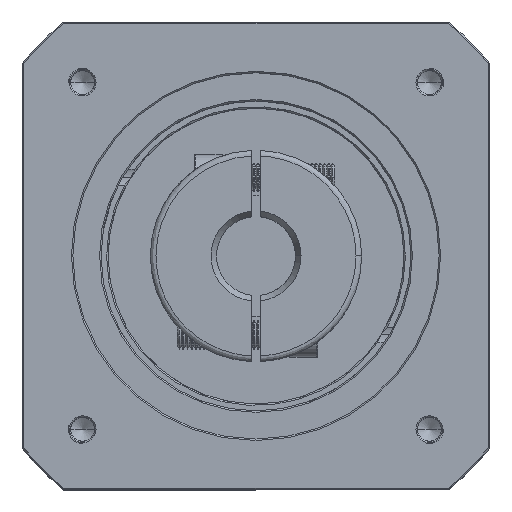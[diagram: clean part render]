
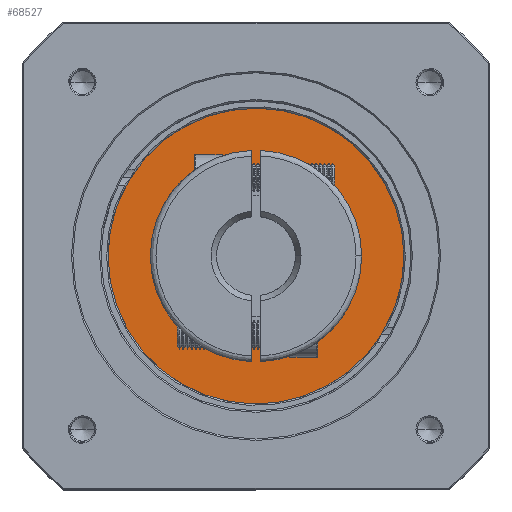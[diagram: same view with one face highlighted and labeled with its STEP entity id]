
A CAD part, top view. The second image highlights one B-rep face of the part: STEP entity #68527.
In plain terms, the highlighted planar face has unit normal (0, 0, 1).
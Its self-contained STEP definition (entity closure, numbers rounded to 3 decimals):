
#5926 = VERTEX_POINT ( 'NONE', #15010 ) ;
#9653 = CARTESIAN_POINT ( 'NONE',  ( -76.656, 94.429, -10.759 ) ) ;
#10221 = ORIENTED_EDGE ( 'NONE', *, *, #88459, .F. ) ;
#11874 = ORIENTED_EDGE ( 'NONE', *, *, #29421, .T. ) ;
#14951 = CIRCLE ( 'NONE', #82581, 30.5 ) ;
#15010 = CARTESIAN_POINT ( 'NONE',  ( -76.656, 155.429, -10.759 ) ) ;
#15611 = DIRECTION ( 'NONE',  ( -1., 0., 0. ) ) ;
#16225 = CIRCLE ( 'NONE', #101549, 52.5 ) ;
#20470 = EDGE_CURVE ( 'NONE', #31307, #5926, #14951, .T. ) ;
#24882 = DIRECTION ( 'NONE',  ( -1., 0., 0. ) ) ;
#29421 = EDGE_CURVE ( 'NONE', #5926, #31307, #79100, .T. ) ;
#30764 = CARTESIAN_POINT ( 'NONE',  ( -76.656, 124.929, -10.759 ) ) ;
#31307 = VERTEX_POINT ( 'NONE', #9653 ) ;
#33458 = CARTESIAN_POINT ( 'NONE',  ( -76.656, 124.929, -10.759 ) ) ;
#39105 = ORIENTED_EDGE ( 'NONE', *, *, #20470, .T. ) ;
#43213 = EDGE_LOOP ( 'NONE', ( #72950, #10221 ) ) ;
#43251 = EDGE_LOOP ( 'NONE', ( #11874, #39105 ) ) ;
#45738 = CARTESIAN_POINT ( 'NONE',  ( -24.156, 124.929, -10.759 ) ) ;
#54579 = AXIS2_PLACEMENT_3D ( 'NONE', #88447, #110121, #15611 ) ;
#59830 = DIRECTION ( 'NONE',  ( 0., 0., -1. ) ) ;
#66486 = DIRECTION ( 'NONE',  ( 0., 0., -1. ) ) ;
#68527 = ADVANCED_FACE ( 'NONE', ( #79650, #136822 ), #109882, .F. ) ;
#72950 = ORIENTED_EDGE ( 'NONE', *, *, #131357, .F. ) ;
#78747 = DIRECTION ( 'NONE',  ( 0., 0., -1. ) ) ;
#79100 = CIRCLE ( 'NONE', #138214, 30.5 ) ;
#79650 = FACE_BOUND ( 'NONE', #43251, .T. ) ;
#82581 = AXIS2_PLACEMENT_3D ( 'NONE', #33458, #66486, #98089 ) ;
#82892 = DIRECTION ( 'NONE',  ( 0., 1., 0. ) ) ;
#88447 = CARTESIAN_POINT ( 'NONE',  ( -76.656, 124.929, -10.759 ) ) ;
#88459 = EDGE_CURVE ( 'NONE', #119154, #113215, #16225, .T. ) ;
#93879 = AXIS2_PLACEMENT_3D ( 'NONE', #120738, #78747, #24882 ) ;
#98089 = DIRECTION ( 'NONE',  ( 0., 1., 0. ) ) ;
#100653 = CIRCLE ( 'NONE', #54579, 52.5 ) ;
#101549 = AXIS2_PLACEMENT_3D ( 'NONE', #30764, #105318, #128400 ) ;
#105318 = DIRECTION ( 'NONE',  ( 0., 0., -1. ) ) ;
#109882 = PLANE ( 'NONE',  #93879 ) ;
#110121 = DIRECTION ( 'NONE',  ( 0., 0., -1. ) ) ;
#113215 = VERTEX_POINT ( 'NONE', #135485 ) ;
#114014 = CARTESIAN_POINT ( 'NONE',  ( -76.656, 124.929, -10.759 ) ) ;
#119154 = VERTEX_POINT ( 'NONE', #45738 ) ;
#120738 = CARTESIAN_POINT ( 'NONE',  ( -76.656, 124.929, -10.759 ) ) ;
#128400 = DIRECTION ( 'NONE',  ( -1., 0., 0. ) ) ;
#131357 = EDGE_CURVE ( 'NONE', #113215, #119154, #100653, .T. ) ;
#135485 = CARTESIAN_POINT ( 'NONE',  ( -129.156, 124.929, -10.759 ) ) ;
#136822 = FACE_OUTER_BOUND ( 'NONE', #43213, .T. ) ;
#138214 = AXIS2_PLACEMENT_3D ( 'NONE', #114014, #59830, #82892 ) ;
